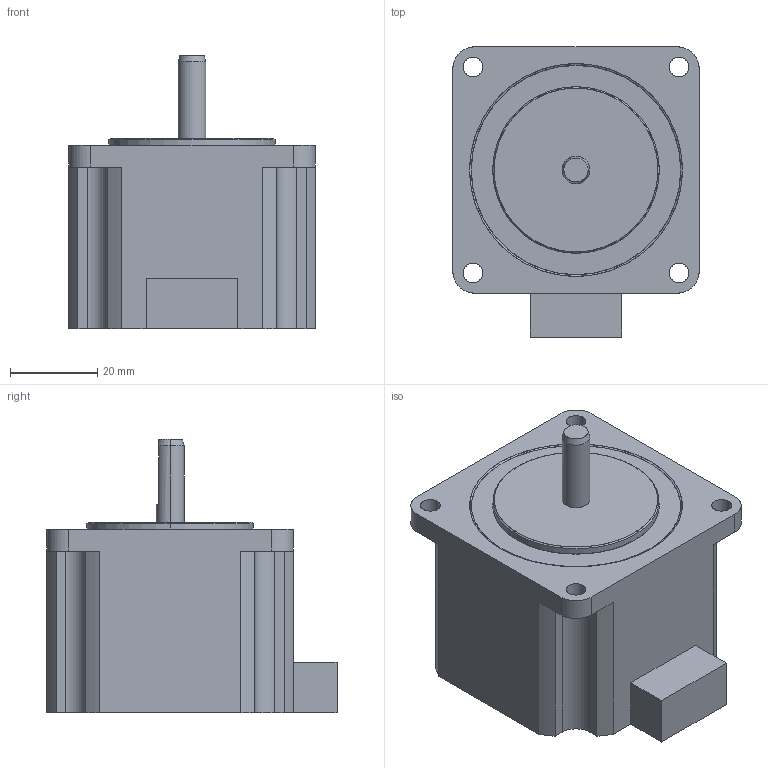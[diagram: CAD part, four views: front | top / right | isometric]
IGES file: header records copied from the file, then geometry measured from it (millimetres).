
Start section: SolidWorks IGES file using analytic representation for surfaces
Global section: file name: \\MCADserv\kari\7666\Plexmotion New 3D data\PMSA-U56D1_3D\PMSA-U56D1_3D.IGS; native system: SolidWorks 2014; preprocessor: SolidWorks 2014; author: user0016; date: 161115.135457; units: millimetre
Bounding box: 56.4 x 66.4 x 62.6 mm (x, y, z)
Surface area: 16409.5 mm2 (no closed solid volume)
Topology: 0 solids, 0 shells, 62 faces, 1002 edges, 1002 vertices
Faces by surface type: revolution 35, bspline 27
